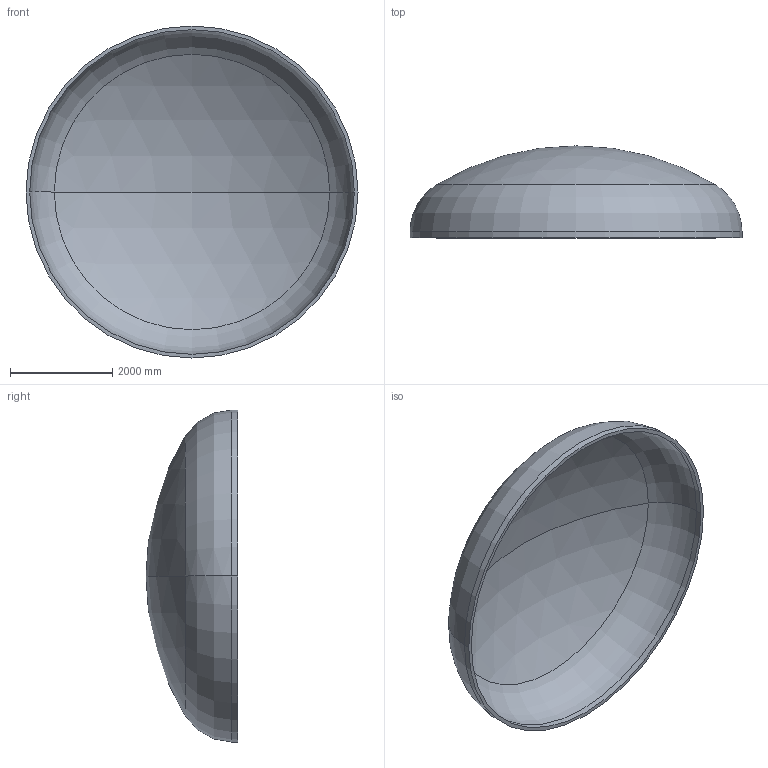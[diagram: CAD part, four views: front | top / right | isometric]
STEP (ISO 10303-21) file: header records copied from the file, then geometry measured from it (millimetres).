
FILE_DESCRIPTION (( 'STEP AP203' ), '1' );
FILE_NAME ('DIN 28013 Korbbogenform_-_Boden DIN 28013 - 6500 x 120 - I - s=72.step', '2016-07-04T10:43:06', ( '' ), ( '' ), 'SwSTEP 2.0', 'SolidWorks 2013', '' );
FILE_SCHEMA (( 'CONFIG_CONTROL_DESIGN' ));
Length unit declared in the file: millimetre
Products named in the file (1): DIN 28013 Korbbogenform_-_Boden DIN 28013 - 6500 x 120 - I - s=72
Bounding box: 6500 x 1800.86 x 6500 mm (x, y, z)
Volume: 3434702214.1 mm3; surface area: 96873195.2 mm2
Topology: 1 solids, 1 shells, 13 faces, 24 edges, 14 vertices
Faces by surface type: torus 4, cylinder 4, sphere 4, plane 1
Entity records: 407 total; most frequent: DIRECTION 72, CARTESIAN_POINT 52, ORIENTED_EDGE 48, AXIS2_PLACEMENT_3D 34, EDGE_CURVE 24, CIRCLE 20, EDGE_LOOP 14, VERTEX_POINT 14
